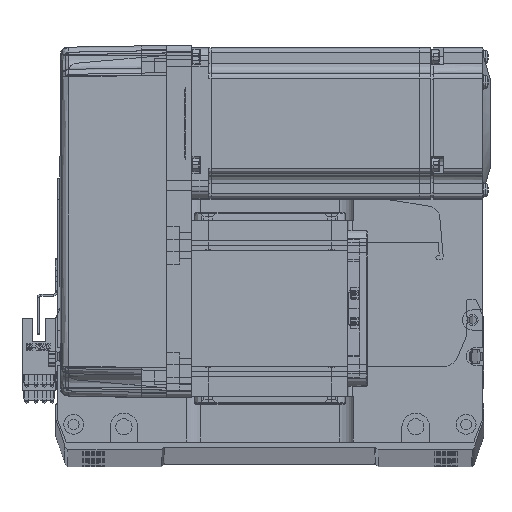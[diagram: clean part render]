
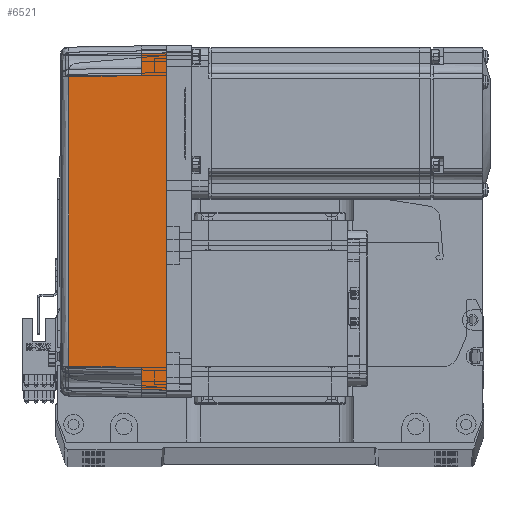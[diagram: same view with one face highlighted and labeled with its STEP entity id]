
A CAD part, top view. The second image highlights one B-rep face of the part: STEP entity #6521.
In plain terms, the highlighted planar face has unit normal (-0.018, 0, 1) as drawn and (0, 1, 0.017) by its records, which use the part's own axes.
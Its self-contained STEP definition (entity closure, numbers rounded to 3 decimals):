
#1271 = ORIENTED_EDGE ( 'NONE', *, *, #18753, .T. ) ;
#1534 = CARTESIAN_POINT ( 'NONE',  ( 70., 35.825, 10. ) ) ;
#1986 = LINE ( 'NONE', #1534, #56585 ) ;
#3607 = DIRECTION ( 'NONE',  ( 0., -0.017, 1. ) ) ;
#3800 = ORIENTED_EDGE ( 'NONE', *, *, #10332, .T. ) ;
#6290 = CARTESIAN_POINT ( 'NONE',  ( 67., 36., 0. ) ) ;
#6521 = ADVANCED_FACE ( 'NONE', ( #16964 ), #32865, .T. ) ;
#6803 = AXIS2_PLACEMENT_3D ( 'NONE', #26362, #72069, #3607 ) ;
#7303 = DIRECTION ( 'NONE',  ( 1., 0., 0. ) ) ;
#8523 = B_SPLINE_CURVE_WITH_KNOTS ( 'NONE', 3,
 ( #14413, #20857, #43362, #71284 ),
 .UNSPECIFIED., .F., .F.,
 ( 4, 4 ),
 ( 0., 1. ),
 .UNSPECIFIED. ) ;
#9499 = VECTOR ( 'NONE', #38988, 1000. ) ;
#9713 = VERTEX_POINT ( 'NONE', #61470 ) ;
#10332 = EDGE_CURVE ( 'NONE', #25994, #33761, #25304, .T. ) ;
#10916 = VECTOR ( 'NONE', #27339, 1000. ) ;
#12172 = LINE ( 'NONE', #22026, #9499 ) ;
#12686 = EDGE_CURVE ( 'NONE', #33761, #38875, #12172, .T. ) ;
#14413 = CARTESIAN_POINT ( 'NONE',  ( -57.495, 35.32, 38.985 ) ) ;
#16964 = FACE_OUTER_BOUND ( 'NONE', #56935, .T. ) ;
#18405 = CARTESIAN_POINT ( 'NONE',  ( -67., 36., 0. ) ) ;
#18530 = LINE ( 'NONE', #64100, #63224 ) ;
#18753 = EDGE_CURVE ( 'NONE', #28677, #9713, #18530, .T. ) ;
#19107 = ORIENTED_EDGE ( 'NONE', *, *, #67952, .T. ) ;
#20559 = ORIENTED_EDGE ( 'NONE', *, *, #74077, .F. ) ;
#20857 = CARTESIAN_POINT ( 'NONE',  ( -19.165, 35.316, 39.181 ) ) ;
#20984 = LINE ( 'NONE', #34793, #62957 ) ;
#21754 = ORIENTED_EDGE ( 'NONE', *, *, #62835, .T. ) ;
#21931 = CARTESIAN_POINT ( 'NONE',  ( -66.826, 35.825, 10. ) ) ;
#22026 = CARTESIAN_POINT ( 'NONE',  ( -58., 35.825, 10. ) ) ;
#23427 = DIRECTION ( 'NONE',  ( 0.017, 0.017, -1. ) ) ;
#24107 = DIRECTION ( 'NONE',  ( 1., 0., 0. ) ) ;
#25304 = LINE ( 'NONE', #52318, #30726 ) ;
#25994 = VERTEX_POINT ( 'NONE', #21931 ) ;
#26362 = CARTESIAN_POINT ( 'NONE',  ( 70., 36., 0. ) ) ;
#27069 = ORIENTED_EDGE ( 'NONE', *, *, #48741, .T. ) ;
#27339 = DIRECTION ( 'NONE',  ( 1., 0., 0. ) ) ;
#27899 = VECTOR ( 'NONE', #58828, 1000. ) ;
#28677 = VERTEX_POINT ( 'NONE', #49082 ) ;
#28792 = EDGE_CURVE ( 'NONE', #37777, #34309, #20984, .T. ) ;
#30726 = VECTOR ( 'NONE', #24107, 1000. ) ;
#32601 = CARTESIAN_POINT ( 'NONE',  ( 0., 36., 0. ) ) ;
#32865 = PLANE ( 'NONE',  #6803 ) ;
#33761 = VERTEX_POINT ( 'NONE', #62114 ) ;
#34309 = VERTEX_POINT ( 'NONE', #45053 ) ;
#34793 = CARTESIAN_POINT ( 'NONE',  ( 67.001, 36.001, -0.052 ) ) ;
#37777 = VERTEX_POINT ( 'NONE', #6290 ) ;
#38875 = VERTEX_POINT ( 'NONE', #67897 ) ;
#38988 = DIRECTION ( 'NONE',  ( 0.017, -0.017, 1. ) ) ;
#40809 = DIRECTION ( 'NONE',  ( -0.017, -0.017, 1. ) ) ;
#43362 = CARTESIAN_POINT ( 'NONE',  ( 19.165, 35.316, 39.181 ) ) ;
#45053 = CARTESIAN_POINT ( 'NONE',  ( 66.826, 35.825, 10. ) ) ;
#47713 = ORIENTED_EDGE ( 'NONE', *, *, #28792, .F. ) ;
#48741 = EDGE_CURVE ( 'NONE', #38875, #28677, #8523, .T. ) ;
#49082 = CARTESIAN_POINT ( 'NONE',  ( 57.495, 35.32, 38.985 ) ) ;
#52318 = CARTESIAN_POINT ( 'NONE',  ( 70., 35.825, 10. ) ) ;
#53124 = CARTESIAN_POINT ( 'NONE',  ( -67., 36., 0. ) ) ;
#56585 = VECTOR ( 'NONE', #7303, 1000. ) ;
#56935 = EDGE_LOOP ( 'NONE', ( #19107, #3800, #58268, #27069, #1271, #21754, #47713, #20559 ) ) ;
#58268 = ORIENTED_EDGE ( 'NONE', *, *, #12686, .T. ) ;
#58828 = DIRECTION ( 'NONE',  ( 0.017, -0.017, 1. ) ) ;
#61470 = CARTESIAN_POINT ( 'NONE',  ( 58., 35.825, 10. ) ) ;
#62114 = CARTESIAN_POINT ( 'NONE',  ( -58., 35.825, 10. ) ) ;
#62739 = LINE ( 'NONE', #53124, #27899 ) ;
#62835 = EDGE_CURVE ( 'NONE', #9713, #34309, #1986, .T. ) ;
#62957 = VECTOR ( 'NONE', #40809, 1000. ) ;
#63224 = VECTOR ( 'NONE', #23427, 1000. ) ;
#64100 = CARTESIAN_POINT ( 'NONE',  ( 57.495, 35.32, 38.985 ) ) ;
#67897 = CARTESIAN_POINT ( 'NONE',  ( -57.495, 35.32, 38.985 ) ) ;
#67952 = EDGE_CURVE ( 'NONE', #73693, #25994, #62739, .T. ) ;
#68052 = LINE ( 'NONE', #32601, #10916 ) ;
#71284 = CARTESIAN_POINT ( 'NONE',  ( 57.495, 35.32, 38.985 ) ) ;
#72069 = DIRECTION ( 'NONE',  ( 0., 1., 0.017 ) ) ;
#73693 = VERTEX_POINT ( 'NONE', #18405 ) ;
#74077 = EDGE_CURVE ( 'NONE', #73693, #37777, #68052, .T. ) ;
